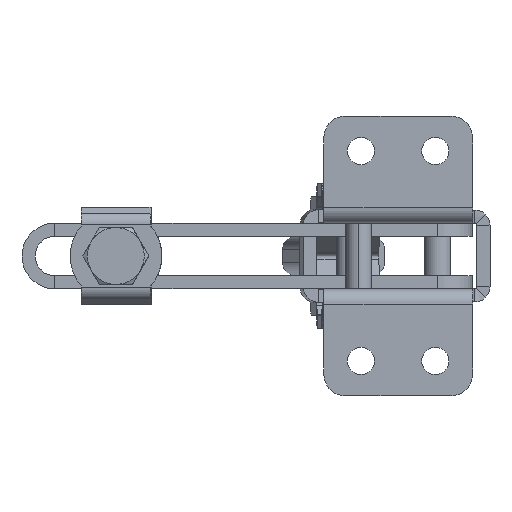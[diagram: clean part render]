
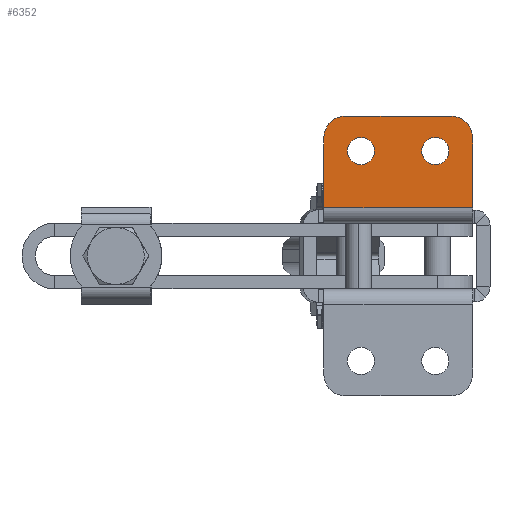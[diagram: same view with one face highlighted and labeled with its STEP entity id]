
A CAD part, front view. The second image highlights one B-rep face of the part: STEP entity #6352.
In plain terms, the highlighted planar face has unit normal (0, -1, 0).
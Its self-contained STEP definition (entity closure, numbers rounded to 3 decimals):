
#26 = AXIS2_PLACEMENT_3D ( 'NONE', #985, #6503, #1771 ) ;
#86 = LINE ( 'NONE', #2255, #8213 ) ;
#171 = EDGE_CURVE ( 'NONE', #7091, #4666, #4633, .T. ) ;
#261 = VERTEX_POINT ( 'NONE', #8585 ) ;
#302 = EDGE_CURVE ( 'NONE', #4325, #6980, #9176, .T. ) ;
#316 = CARTESIAN_POINT ( 'NONE',  ( -9.5, -3.5, 24. ) ) ;
#403 = AXIS2_PLACEMENT_3D ( 'NONE', #316, #5830, #1108 ) ;
#758 = DIRECTION ( 'NONE',  ( 0., 0., 1. ) ) ;
#985 = CARTESIAN_POINT ( 'NONE',  ( -26.5, -3.5, 24. ) ) ;
#1108 = DIRECTION ( 'NONE',  ( 0., 0., -1. ) ) ;
#1128 = CARTESIAN_POINT ( 'NONE',  ( 0., -3.5, 32. ) ) ;
#1183 = LINE ( 'NONE', #3250, #7232 ) ;
#1214 = AXIS2_PLACEMENT_3D ( 'NONE', #7790, #3065, #8589 ) ;
#1274 = ORIENTED_EDGE ( 'NONE', *, *, #1722, .T. ) ;
#1370 = CARTESIAN_POINT ( 'NONE',  ( -26.5, -3.5, 20.9 ) ) ;
#1507 = ORIENTED_EDGE ( 'NONE', *, *, #5164, .T. ) ;
#1589 = VERTEX_POINT ( 'NONE', #9610 ) ;
#1722 = EDGE_CURVE ( 'NONE', #5101, #4325, #9759, .T. ) ;
#1771 = DIRECTION ( 'NONE',  ( 0., 0., -1. ) ) ;
#1813 = DIRECTION ( 'NONE',  ( 0., -1., 0. ) ) ;
#1979 = EDGE_CURVE ( 'NONE', #9181, #9351, #7514, .T. ) ;
#2038 = AXIS2_PLACEMENT_3D ( 'NONE', #6530, #1813, #7323 ) ;
#2228 = EDGE_LOOP ( 'NONE', ( #2840, #9193 ) ) ;
#2255 = CARTESIAN_POINT ( 'NONE',  ( -35., -3.5, 0. ) ) ;
#2271 = DIRECTION ( 'NONE',  ( 0., -1., 0. ) ) ;
#2720 = EDGE_CURVE ( 'NONE', #6980, #4666, #86, .T. ) ;
#2840 = ORIENTED_EDGE ( 'NONE', *, *, #6675, .F. ) ;
#2846 = EDGE_CURVE ( 'NONE', #7091, #261, #1183, .T. ) ;
#2934 = AXIS2_PLACEMENT_3D ( 'NONE', #10194, #5492, #758 ) ;
#2999 = CIRCLE ( 'NONE', #2038, 5. ) ;
#3065 = DIRECTION ( 'NONE',  ( 0., -1., 0. ) ) ;
#3250 = CARTESIAN_POINT ( 'NONE',  ( -1., -3.5, 0. ) ) ;
#3271 = CARTESIAN_POINT ( 'NONE',  ( -6., -3.5, 32. ) ) ;
#3479 = ORIENTED_EDGE ( 'NONE', *, *, #8116, .F. ) ;
#3762 = DIRECTION ( 'NONE',  ( -1., 0., 0. ) ) ;
#3929 = DIRECTION ( 'NONE',  ( 0., 1., 0. ) ) ;
#4005 = CIRCLE ( 'NONE', #5960, 3.1 ) ;
#4325 = VERTEX_POINT ( 'NONE', #8550 ) ;
#4389 = VECTOR ( 'NONE', #3762, 1000. ) ;
#4633 = LINE ( 'NONE', #8469, #4389 ) ;
#4666 = VERTEX_POINT ( 'NONE', #9040 ) ;
#4699 = CARTESIAN_POINT ( 'NONE',  ( 0., -3.5, 0. ) ) ;
#4840 = EDGE_LOOP ( 'NONE', ( #9869, #1507, #1274, #9086, #7935, #5752 ) ) ;
#4841 = CIRCLE ( 'NONE', #1214, 3.1 ) ;
#5046 = VERTEX_POINT ( 'NONE', #9520 ) ;
#5101 = VERTEX_POINT ( 'NONE', #3271 ) ;
#5164 = EDGE_CURVE ( 'NONE', #261, #5101, #2999, .T. ) ;
#5335 = CIRCLE ( 'NONE', #403, 3.1 ) ;
#5492 = DIRECTION ( 'NONE',  ( 0., -1., 0. ) ) ;
#5752 = ORIENTED_EDGE ( 'NONE', *, *, #171, .F. ) ;
#5830 = DIRECTION ( 'NONE',  ( 0., -1., 0. ) ) ;
#5960 = AXIS2_PLACEMENT_3D ( 'NONE', #6996, #2271, #7789 ) ;
#6352 = ADVANCED_FACE ( 'NONE', ( #9808, #7962, #10042 ), #10195, .F. ) ;
#6503 = DIRECTION ( 'NONE',  ( 0., -1., 0. ) ) ;
#6530 = CARTESIAN_POINT ( 'NONE',  ( -6., -3.5, 27. ) ) ;
#6675 = EDGE_CURVE ( 'NONE', #9351, #9181, #4005, .T. ) ;
#6980 = VERTEX_POINT ( 'NONE', #7387 ) ;
#6996 = CARTESIAN_POINT ( 'NONE',  ( -26.5, -3.5, 24. ) ) ;
#7091 = VERTEX_POINT ( 'NONE', #8341 ) ;
#7232 = VECTOR ( 'NONE', #9544, 1000. ) ;
#7323 = DIRECTION ( 'NONE',  ( 0., 0., 1. ) ) ;
#7387 = CARTESIAN_POINT ( 'NONE',  ( -35., -3.5, 27. ) ) ;
#7444 = ORIENTED_EDGE ( 'NONE', *, *, #8977, .F. ) ;
#7514 = CIRCLE ( 'NONE', #26, 3.1 ) ;
#7645 = VECTOR ( 'NONE', #9014, 1000. ) ;
#7789 = DIRECTION ( 'NONE',  ( 0., 0., -1. ) ) ;
#7790 = CARTESIAN_POINT ( 'NONE',  ( -9.5, -3.5, 24. ) ) ;
#7935 = ORIENTED_EDGE ( 'NONE', *, *, #2720, .T. ) ;
#7962 = FACE_BOUND ( 'NONE', #2228, .T. ) ;
#8116 = EDGE_CURVE ( 'NONE', #5046, #1589, #5335, .T. ) ;
#8213 = VECTOR ( 'NONE', #9352, 1000. ) ;
#8341 = CARTESIAN_POINT ( 'NONE',  ( -1., -3.5, 11. ) ) ;
#8469 = CARTESIAN_POINT ( 'NONE',  ( -35., -3.5, 11. ) ) ;
#8550 = CARTESIAN_POINT ( 'NONE',  ( -30., -3.5, 32. ) ) ;
#8585 = CARTESIAN_POINT ( 'NONE',  ( -1., -3.5, 27. ) ) ;
#8589 = DIRECTION ( 'NONE',  ( 0., 0., -1. ) ) ;
#8977 = EDGE_CURVE ( 'NONE', #1589, #5046, #4841, .T. ) ;
#9014 = DIRECTION ( 'NONE',  ( -1., 0., 0. ) ) ;
#9040 = CARTESIAN_POINT ( 'NONE',  ( -35., -3.5, 11. ) ) ;
#9067 = CARTESIAN_POINT ( 'NONE',  ( -26.5, -3.5, 27.1 ) ) ;
#9086 = ORIENTED_EDGE ( 'NONE', *, *, #302, .T. ) ;
#9176 = CIRCLE ( 'NONE', #2934, 5. ) ;
#9181 = VERTEX_POINT ( 'NONE', #9067 ) ;
#9193 = ORIENTED_EDGE ( 'NONE', *, *, #1979, .F. ) ;
#9351 = VERTEX_POINT ( 'NONE', #1370 ) ;
#9352 = DIRECTION ( 'NONE',  ( 0., 0., -1. ) ) ;
#9448 = DIRECTION ( 'NONE',  ( 0., 0., 1. ) ) ;
#9520 = CARTESIAN_POINT ( 'NONE',  ( -9.5, -3.5, 27.1 ) ) ;
#9522 = AXIS2_PLACEMENT_3D ( 'NONE', #4699, #3929, #9448 ) ;
#9544 = DIRECTION ( 'NONE',  ( 0., 0., 1. ) ) ;
#9610 = CARTESIAN_POINT ( 'NONE',  ( -9.5, -3.5, 20.9 ) ) ;
#9759 = LINE ( 'NONE', #1128, #7645 ) ;
#9808 = FACE_BOUND ( 'NONE', #9811, .T. ) ;
#9811 = EDGE_LOOP ( 'NONE', ( #7444, #3479 ) ) ;
#9869 = ORIENTED_EDGE ( 'NONE', *, *, #2846, .T. ) ;
#10042 = FACE_OUTER_BOUND ( 'NONE', #4840, .T. ) ;
#10194 = CARTESIAN_POINT ( 'NONE',  ( -30., -3.5, 27. ) ) ;
#10195 = PLANE ( 'NONE',  #9522 ) ;
